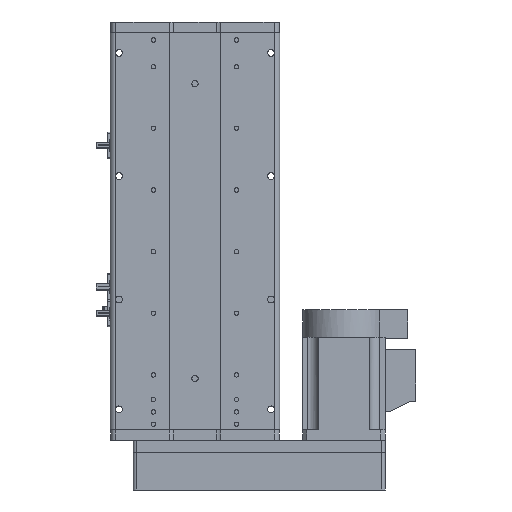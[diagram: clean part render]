
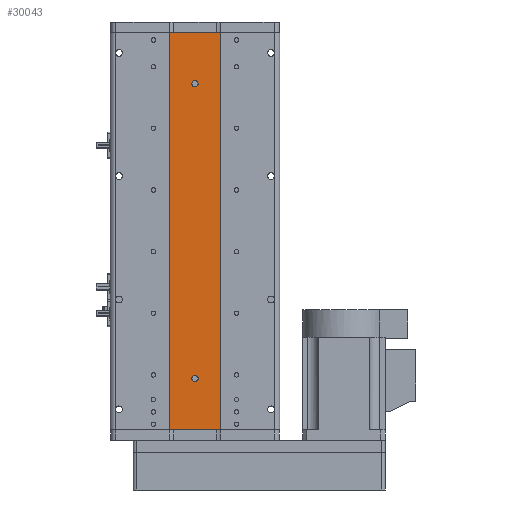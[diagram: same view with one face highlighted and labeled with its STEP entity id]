
A CAD part, front view. The second image highlights one B-rep face of the part: STEP entity #30043.
In plain terms, the highlighted planar face has unit normal (0, -1, 0).
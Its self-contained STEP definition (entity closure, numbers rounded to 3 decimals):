
#1316 = CARTESIAN_POINT ( 'NONE',  ( -25., 1., -193.5 ) ) ;
#2033 = AXIS2_PLACEMENT_3D ( 'NONE', #40504, #13740, #44942 ) ;
#2156 = VERTEX_POINT ( 'NONE', #39491 ) ;
#2849 = CARTESIAN_POINT ( 'NONE',  ( 0., 1., -140.5 ) ) ;
#3548 = DIRECTION ( 'NONE',  ( 0., -1., 0. ) ) ;
#4728 = AXIS2_PLACEMENT_3D ( 'NONE', #36820, #10023, #41302 ) ;
#5346 = AXIS2_PLACEMENT_3D ( 'NONE', #50947, #37540, #28748 ) ;
#6206 = CARTESIAN_POINT ( 'NONE',  ( 25., 1., 193.5 ) ) ;
#8373 = ORIENTED_EDGE ( 'NONE', *, *, #32045, .F. ) ;
#10023 = DIRECTION ( 'NONE',  ( 0., -1., 0. ) ) ;
#10441 = ORIENTED_EDGE ( 'NONE', *, *, #31878, .F. ) ;
#11904 = EDGE_LOOP ( 'NONE', ( #10441, #18721 ) ) ;
#12179 = AXIS2_PLACEMENT_3D ( 'NONE', #30370, #3548, #34844 ) ;
#12266 = CIRCLE ( 'NONE', #4728, 3. ) ;
#12596 = EDGE_LOOP ( 'NONE', ( #47798, #17427, #56849, #15458 ) ) ;
#12637 = DIRECTION ( 'NONE',  ( 0., 0., -1. ) ) ;
#12961 = LINE ( 'NONE', #20950, #24801 ) ;
#13740 = DIRECTION ( 'NONE',  ( 0., -1., 0. ) ) ;
#14513 = CIRCLE ( 'NONE', #53782, 3. ) ;
#14561 = VERTEX_POINT ( 'NONE', #24419 ) ;
#15458 = ORIENTED_EDGE ( 'NONE', *, *, #54560, .T. ) ;
#16058 = VECTOR ( 'NONE', #32998, 1000. ) ;
#17427 = ORIENTED_EDGE ( 'NONE', *, *, #52527, .F. ) ;
#18721 = ORIENTED_EDGE ( 'NONE', *, *, #41999, .F. ) ;
#19049 = EDGE_CURVE ( 'NONE', #45520, #2156, #39840, .T. ) ;
#20950 = CARTESIAN_POINT ( 'NONE',  ( 25., 1., 193.5 ) ) ;
#21532 = DIRECTION ( 'NONE',  ( 0., -1., 0. ) ) ;
#22993 = EDGE_CURVE ( 'NONE', #54331, #23666, #50700, .T. ) ;
#23666 = VERTEX_POINT ( 'NONE', #26127 ) ;
#24419 = CARTESIAN_POINT ( 'NONE',  ( 0., 1., 140.5 ) ) ;
#24801 = VECTOR ( 'NONE', #34456, 1000. ) ;
#24972 = FACE_BOUND ( 'NONE', #11904, .T. ) ;
#25940 = EDGE_CURVE ( 'NONE', #32870, #28423, #12266, .T. ) ;
#26127 = CARTESIAN_POINT ( 'NONE',  ( 25., 1., -193.5 ) ) ;
#26388 = FACE_BOUND ( 'NONE', #48805, .T. ) ;
#28423 = VERTEX_POINT ( 'NONE', #32193 ) ;
#28748 = DIRECTION ( 'NONE',  ( 0., 0., 1. ) ) ;
#29408 = CARTESIAN_POINT ( 'NONE',  ( 25., 1., -193.5 ) ) ;
#30043 = ADVANCED_FACE ( 'NONE', ( #26388, #24972, #48738 ), #55413, .F. ) ;
#30370 = CARTESIAN_POINT ( 'NONE',  ( 0., 1., 143.5 ) ) ;
#31878 = EDGE_CURVE ( 'NONE', #14561, #33482, #40170, .T. ) ;
#32045 = EDGE_CURVE ( 'NONE', #28423, #32870, #43615, .T. ) ;
#32193 = CARTESIAN_POINT ( 'NONE',  ( 0., 1., -146.5 ) ) ;
#32870 = VERTEX_POINT ( 'NONE', #2849 ) ;
#32998 = DIRECTION ( 'NONE',  ( 1., 0., 0. ) ) ;
#33482 = VERTEX_POINT ( 'NONE', #43038 ) ;
#34456 = DIRECTION ( 'NONE',  ( 0., 0., -1. ) ) ;
#34844 = DIRECTION ( 'NONE',  ( 0., 0., -1. ) ) ;
#34909 = CARTESIAN_POINT ( 'NONE',  ( -25., 1., 193.5 ) ) ;
#36820 = CARTESIAN_POINT ( 'NONE',  ( 0., 1., -143.5 ) ) ;
#37540 = DIRECTION ( 'NONE',  ( 0., 1., 0. ) ) ;
#38533 = VECTOR ( 'NONE', #12637, 1000. ) ;
#39491 = CARTESIAN_POINT ( 'NONE',  ( 25., 1., 193.5 ) ) ;
#39671 = ORIENTED_EDGE ( 'NONE', *, *, #25940, .F. ) ;
#39840 = LINE ( 'NONE', #6206, #16058 ) ;
#40170 = CIRCLE ( 'NONE', #12179, 3. ) ;
#40504 = CARTESIAN_POINT ( 'NONE',  ( 0., 1., -143.5 ) ) ;
#41302 = DIRECTION ( 'NONE',  ( 0., 0., -1. ) ) ;
#41999 = EDGE_CURVE ( 'NONE', #33482, #14561, #14513, .T. ) ;
#43038 = CARTESIAN_POINT ( 'NONE',  ( 0., 1., 146.5 ) ) ;
#43615 = CIRCLE ( 'NONE', #2033, 3. ) ;
#44446 = VECTOR ( 'NONE', #47126, 1000. ) ;
#44942 = DIRECTION ( 'NONE',  ( 0., 0., -1. ) ) ;
#45520 = VERTEX_POINT ( 'NONE', #56197 ) ;
#47126 = DIRECTION ( 'NONE',  ( 1., 0., 0. ) ) ;
#47798 = ORIENTED_EDGE ( 'NONE', *, *, #22993, .T. ) ;
#48260 = CARTESIAN_POINT ( 'NONE',  ( 0., 1., 143.5 ) ) ;
#48738 = FACE_OUTER_BOUND ( 'NONE', #12596, .T. ) ;
#48805 = EDGE_LOOP ( 'NONE', ( #8373, #39671 ) ) ;
#50346 = LINE ( 'NONE', #34909, #38533 ) ;
#50700 = LINE ( 'NONE', #29408, #44446 ) ;
#50947 = CARTESIAN_POINT ( 'NONE',  ( 25., 1., 193.5 ) ) ;
#52527 = EDGE_CURVE ( 'NONE', #2156, #23666, #12961, .T. ) ;
#52750 = DIRECTION ( 'NONE',  ( 0., 0., -1. ) ) ;
#53782 = AXIS2_PLACEMENT_3D ( 'NONE', #48260, #21532, #52750 ) ;
#54331 = VERTEX_POINT ( 'NONE', #1316 ) ;
#54560 = EDGE_CURVE ( 'NONE', #45520, #54331, #50346, .T. ) ;
#55413 = PLANE ( 'NONE',  #5346 ) ;
#56197 = CARTESIAN_POINT ( 'NONE',  ( -25., 1., 193.5 ) ) ;
#56849 = ORIENTED_EDGE ( 'NONE', *, *, #19049, .F. ) ;
